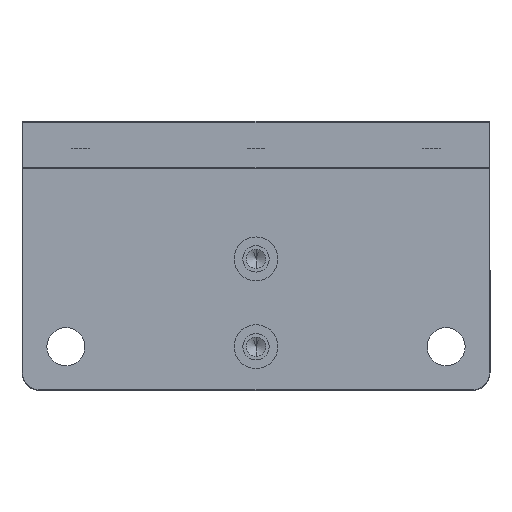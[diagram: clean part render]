
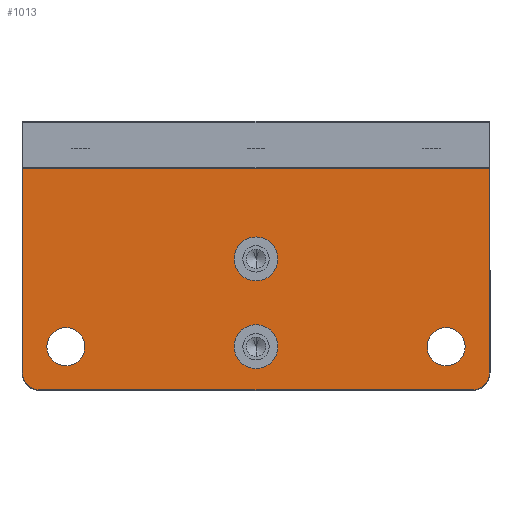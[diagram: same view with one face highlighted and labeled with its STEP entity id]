
A CAD part, front view. The second image highlights one B-rep face of the part: STEP entity #1013.
In plain terms, the highlighted planar face has unit normal (0, -1, 0) as drawn and (0, 0, 1) by its records, which use the part's own axes.
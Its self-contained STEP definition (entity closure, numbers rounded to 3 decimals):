
#28 = CARTESIAN_POINT ( 'NONE',  ( 37., 18.9, 4. ) ) ;
#30 = FACE_BOUND ( 'NONE', #1922, .T. ) ;
#119 = VERTEX_POINT ( 'NONE', #494 ) ;
#135 = ORIENTED_EDGE ( 'NONE', *, *, #1129, .F. ) ;
#165 = CARTESIAN_POINT ( 'NONE',  ( -37., 18.9, 4. ) ) ;
#269 = CARTESIAN_POINT ( 'NONE',  ( 32.5, 11.5, 4. ) ) ;
#299 = VECTOR ( 'NONE', #3936, 1000. ) ;
#349 = CARTESIAN_POINT ( 'NONE',  ( -32.5, 11.5, 4. ) ) ;
#365 = DIRECTION ( 'NONE',  ( 0., 0., 1. ) ) ;
#377 = DIRECTION ( 'NONE',  ( 1., 0., 0. ) ) ;
#398 = EDGE_CURVE ( 'NONE', #3590, #964, #2231, .T. ) ;
#445 = ORIENTED_EDGE ( 'NONE', *, *, #3048, .F. ) ;
#464 = LINE ( 'NONE', #2440, #2301 ) ;
#494 = CARTESIAN_POINT ( 'NONE',  ( -39.9, 16., 4. ) ) ;
#518 = CARTESIAN_POINT ( 'NONE',  ( 39.9, 16., 4. ) ) ;
#547 = VERTEX_POINT ( 'NONE', #4196 ) ;
#557 = DIRECTION ( 'NONE',  ( 0., 1., 0. ) ) ;
#606 = VERTEX_POINT ( 'NONE', #3849 ) ;
#614 = DIRECTION ( 'NONE',  ( 1., 0., 0. ) ) ;
#635 = AXIS2_PLACEMENT_3D ( 'NONE', #3289, #3321, #814 ) ;
#640 = CARTESIAN_POINT ( 'NONE',  ( -39.9, 16., 4. ) ) ;
#757 = AXIS2_PLACEMENT_3D ( 'NONE', #2801, #2787, #2753 ) ;
#768 = EDGE_CURVE ( 'NONE', #2287, #547, #1117, .T. ) ;
#785 = CIRCLE ( 'NONE', #4296, 3.25 ) ;
#814 = DIRECTION ( 'NONE',  ( 1., 0., 0. ) ) ;
#818 = DIRECTION ( 'NONE',  ( 1., 0., 0. ) ) ;
#832 = DIRECTION ( 'NONE',  ( 0., 0., 1. ) ) ;
#837 = CARTESIAN_POINT ( 'NONE',  ( 0., 11.5, 4. ) ) ;
#848 = AXIS2_PLACEMENT_3D ( 'NONE', #2469, #2513, #2499 ) ;
#870 = ORIENTED_EDGE ( 'NONE', *, *, #2477, .T. ) ;
#964 = VERTEX_POINT ( 'NONE', #1457 ) ;
#1000 = EDGE_CURVE ( 'NONE', #964, #3590, #1684, .T. ) ;
#1006 = ORIENTED_EDGE ( 'NONE', *, *, #1899, .T. ) ;
#1013 = ADVANCED_FACE ( 'NONE', ( #3676, #30, #2830, #4282, #1588 ), #1983, .F. ) ;
#1081 = ORIENTED_EDGE ( 'NONE', *, *, #1000, .F. ) ;
#1117 = CIRCLE ( 'NONE', #1365, 3.75 ) ;
#1129 = EDGE_CURVE ( 'NONE', #547, #2287, #1672, .T. ) ;
#1233 = CARTESIAN_POINT ( 'NONE',  ( 29.25, 11.5, 4. ) ) ;
#1248 = ORIENTED_EDGE ( 'NONE', *, *, #1815, .F. ) ;
#1365 = AXIS2_PLACEMENT_3D ( 'NONE', #837, #832, #818 ) ;
#1457 = CARTESIAN_POINT ( 'NONE',  ( -3.75, -3.5, 4. ) ) ;
#1470 = CARTESIAN_POINT ( 'NONE',  ( 35.75, 11.5, 4. ) ) ;
#1518 = AXIS2_PLACEMENT_3D ( 'NONE', #2039, #1974, #1955 ) ;
#1531 = EDGE_LOOP ( 'NONE', ( #1248, #3126 ) ) ;
#1588 = FACE_BOUND ( 'NONE', #4248, .T. ) ;
#1616 = CARTESIAN_POINT ( 'NONE',  ( 39.9, 16., 4. ) ) ;
#1655 = AXIS2_PLACEMENT_3D ( 'NONE', #3688, #4258, #2683 ) ;
#1672 = CIRCLE ( 'NONE', #4234, 3.75 ) ;
#1676 = CARTESIAN_POINT ( 'NONE',  ( 39.9, -18.9, 4. ) ) ;
#1684 = CIRCLE ( 'NONE', #1518, 3.75 ) ;
#1815 = EDGE_CURVE ( 'NONE', #606, #2334, #3217, .T. ) ;
#1833 = VERTEX_POINT ( 'NONE', #3294 ) ;
#1899 = EDGE_CURVE ( 'NONE', #119, #1833, #3828, .T. ) ;
#1904 = DIRECTION ( 'NONE',  ( 0., 0., -1. ) ) ;
#1918 = DIRECTION ( 'NONE',  ( -1., 0., 0. ) ) ;
#1922 = EDGE_LOOP ( 'NONE', ( #2905, #1081 ) ) ;
#1953 = CARTESIAN_POINT ( 'NONE',  ( -37., 16., 4. ) ) ;
#1955 = DIRECTION ( 'NONE',  ( 1., 0., 0. ) ) ;
#1974 = DIRECTION ( 'NONE',  ( 0., 0., 1. ) ) ;
#1983 = PLANE ( 'NONE',  #2202 ) ;
#2039 = CARTESIAN_POINT ( 'NONE',  ( 0., -3.5, 4. ) ) ;
#2125 = LINE ( 'NONE', #3615, #299 ) ;
#2169 = ORIENTED_EDGE ( 'NONE', *, *, #3825, .T. ) ;
#2192 = CIRCLE ( 'NONE', #1655, 2.9 ) ;
#2202 = AXIS2_PLACEMENT_3D ( 'NONE', #1953, #1904, #1918 ) ;
#2217 = DIRECTION ( 'NONE',  ( 0., 0., 1. ) ) ;
#2222 = CARTESIAN_POINT ( 'NONE',  ( 0., -3.5, 4. ) ) ;
#2231 = CIRCLE ( 'NONE', #3124, 3.75 ) ;
#2277 = CARTESIAN_POINT ( 'NONE',  ( -29.25, 11.5, 4. ) ) ;
#2287 = VERTEX_POINT ( 'NONE', #2333 ) ;
#2301 = VECTOR ( 'NONE', #2424, 1000. ) ;
#2316 = ORIENTED_EDGE ( 'NONE', *, *, #3060, .T. ) ;
#2333 = CARTESIAN_POINT ( 'NONE',  ( 3.75, 11.5, 4. ) ) ;
#2334 = VERTEX_POINT ( 'NONE', #2277 ) ;
#2409 = CIRCLE ( 'NONE', #757, 3.25 ) ;
#2424 = DIRECTION ( 'NONE',  ( 1., 0., 0. ) ) ;
#2440 = CARTESIAN_POINT ( 'NONE',  ( -37., -18.9, 4. ) ) ;
#2469 = CARTESIAN_POINT ( 'NONE',  ( -37., 16., 4. ) ) ;
#2477 = EDGE_CURVE ( 'NONE', #3638, #3359, #4403, .T. ) ;
#2499 = DIRECTION ( 'NONE',  ( -1., 0., 0. ) ) ;
#2513 = DIRECTION ( 'NONE',  ( 0., 0., 1. ) ) ;
#2527 = ORIENTED_EDGE ( 'NONE', *, *, #4184, .F. ) ;
#2564 = EDGE_CURVE ( 'NONE', #2334, #606, #3881, .T. ) ;
#2579 = DIRECTION ( 'NONE',  ( 0., 0., 1. ) ) ;
#2596 = DIRECTION ( 'NONE',  ( 1., 0., 0. ) ) ;
#2613 = CARTESIAN_POINT ( 'NONE',  ( 0., 11.5, 4. ) ) ;
#2676 = VERTEX_POINT ( 'NONE', #1233 ) ;
#2681 = DIRECTION ( 'NONE',  ( 0., 0., 1. ) ) ;
#2683 = DIRECTION ( 'NONE',  ( -1., 0., 0. ) ) ;
#2735 = EDGE_CURVE ( 'NONE', #3699, #119, #3449, .T. ) ;
#2753 = DIRECTION ( 'NONE',  ( 1., 0., 0. ) ) ;
#2767 = ORIENTED_EDGE ( 'NONE', *, *, #2735, .T. ) ;
#2787 = DIRECTION ( 'NONE',  ( 0., 0., 1. ) ) ;
#2801 = CARTESIAN_POINT ( 'NONE',  ( 32.5, 11.5, 4. ) ) ;
#2830 = FACE_OUTER_BOUND ( 'NONE', #3110, .T. ) ;
#2840 = VECTOR ( 'NONE', #3938, 1000. ) ;
#2859 = EDGE_LOOP ( 'NONE', ( #3149, #135 ) ) ;
#2905 = ORIENTED_EDGE ( 'NONE', *, *, #398, .F. ) ;
#3048 = EDGE_CURVE ( 'NONE', #3736, #2676, #2409, .T. ) ;
#3060 = EDGE_CURVE ( 'NONE', #1833, #3638, #464, .T. ) ;
#3110 = EDGE_LOOP ( 'NONE', ( #1006, #2316, #870, #2169, #3944, #2767 ) ) ;
#3124 = AXIS2_PLACEMENT_3D ( 'NONE', #2222, #2217, #4152 ) ;
#3126 = ORIENTED_EDGE ( 'NONE', *, *, #2564, .F. ) ;
#3149 = ORIENTED_EDGE ( 'NONE', *, *, #768, .F. ) ;
#3217 = CIRCLE ( 'NONE', #635, 3.25 ) ;
#3289 = CARTESIAN_POINT ( 'NONE',  ( -32.5, 11.5, 4. ) ) ;
#3294 = CARTESIAN_POINT ( 'NONE',  ( -39.9, -18.9, 4. ) ) ;
#3321 = DIRECTION ( 'NONE',  ( 0., 0., 1. ) ) ;
#3359 = VERTEX_POINT ( 'NONE', #1616 ) ;
#3449 = CIRCLE ( 'NONE', #848, 2.9 ) ;
#3590 = VERTEX_POINT ( 'NONE', #3710 ) ;
#3615 = CARTESIAN_POINT ( 'NONE',  ( -37., 18.9, 4. ) ) ;
#3638 = VERTEX_POINT ( 'NONE', #1676 ) ;
#3672 = AXIS2_PLACEMENT_3D ( 'NONE', #349, #365, #377 ) ;
#3676 = FACE_BOUND ( 'NONE', #2859, .T. ) ;
#3688 = CARTESIAN_POINT ( 'NONE',  ( 37., 16., 4. ) ) ;
#3699 = VERTEX_POINT ( 'NONE', #165 ) ;
#3710 = CARTESIAN_POINT ( 'NONE',  ( 3.75, -3.5, 4. ) ) ;
#3736 = VERTEX_POINT ( 'NONE', #1470 ) ;
#3825 = EDGE_CURVE ( 'NONE', #3359, #4422, #2192, .T. ) ;
#3828 = LINE ( 'NONE', #640, #2840 ) ;
#3849 = CARTESIAN_POINT ( 'NONE',  ( -35.75, 11.5, 4. ) ) ;
#3881 = CIRCLE ( 'NONE', #3672, 3.25 ) ;
#3936 = DIRECTION ( 'NONE',  ( -1., 0., 0. ) ) ;
#3938 = DIRECTION ( 'NONE',  ( 0., -1., 0. ) ) ;
#3944 = ORIENTED_EDGE ( 'NONE', *, *, #4066, .T. ) ;
#4066 = EDGE_CURVE ( 'NONE', #4422, #3699, #2125, .T. ) ;
#4152 = DIRECTION ( 'NONE',  ( 1., 0., 0. ) ) ;
#4184 = EDGE_CURVE ( 'NONE', #2676, #3736, #785, .T. ) ;
#4196 = CARTESIAN_POINT ( 'NONE',  ( -3.75, 11.5, 4. ) ) ;
#4234 = AXIS2_PLACEMENT_3D ( 'NONE', #2613, #2579, #2596 ) ;
#4248 = EDGE_LOOP ( 'NONE', ( #2527, #445 ) ) ;
#4258 = DIRECTION ( 'NONE',  ( 0., 0., 1. ) ) ;
#4282 = FACE_BOUND ( 'NONE', #1531, .T. ) ;
#4296 = AXIS2_PLACEMENT_3D ( 'NONE', #269, #2681, #614 ) ;
#4304 = VECTOR ( 'NONE', #557, 1000. ) ;
#4403 = LINE ( 'NONE', #518, #4304 ) ;
#4422 = VERTEX_POINT ( 'NONE', #28 ) ;
